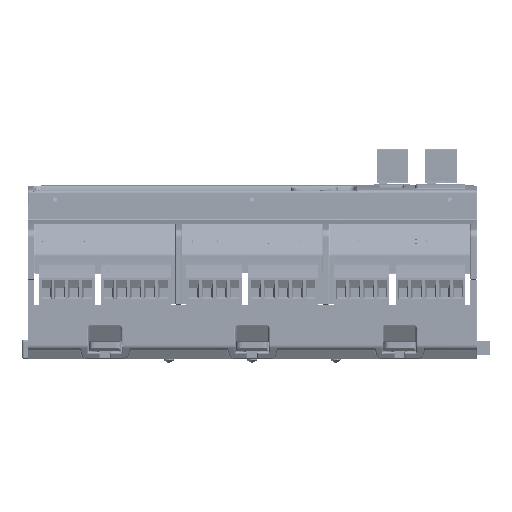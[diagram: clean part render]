
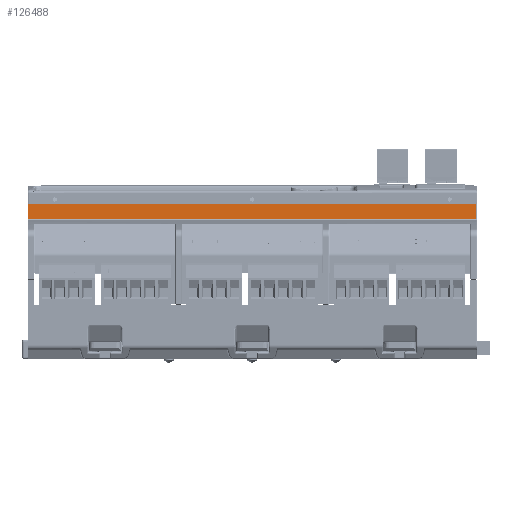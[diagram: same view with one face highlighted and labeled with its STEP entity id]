
A CAD part, front view. The second image highlights one B-rep face of the part: STEP entity #126488.
In plain terms, the highlighted planar face has unit normal (0, -1, 0).
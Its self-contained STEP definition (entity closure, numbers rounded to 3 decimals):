
#35237 = LINE ( 'NONE', #103022, #248718 ) ;
#35312 = LINE ( 'NONE', #200006, #67527 ) ;
#60106 = VERTEX_POINT ( 'NONE', #227771 ) ;
#63825 = VECTOR ( 'NONE', #340457, 1000. ) ;
#66747 = FACE_OUTER_BOUND ( 'NONE', #374741, .T. ) ;
#67527 = VECTOR ( 'NONE', #285163, 1000. ) ;
#95423 = VERTEX_POINT ( 'NONE', #366575 ) ;
#103022 = CARTESIAN_POINT ( 'NONE',  ( -80.6, -22.5, 27. ) ) ;
#108016 = DIRECTION ( 'NONE',  ( 0., 0., -1. ) ) ;
#118949 = LINE ( 'NONE', #252381, #323620 ) ;
#126488 = ADVANCED_FACE ( 'NONE', ( #66747 ), #344874, .F. ) ;
#140790 = VERTEX_POINT ( 'NONE', #194114 ) ;
#142195 = ORIENTED_EDGE ( 'NONE', *, *, #158978, .T. ) ;
#142391 = ORIENTED_EDGE ( 'NONE', *, *, #336098, .T. ) ;
#142961 = CARTESIAN_POINT ( 'NONE',  ( -80.6, -22.5, 27. ) ) ;
#143932 = CARTESIAN_POINT ( 'NONE',  ( 80.8, -22.5, 27. ) ) ;
#147719 = DIRECTION ( 'NONE',  ( 0., 0., 1. ) ) ;
#158978 = EDGE_CURVE ( 'NONE', #324323, #60106, #35237, .T. ) ;
#165050 = CARTESIAN_POINT ( 'NONE',  ( 80.6, -22.5, 27. ) ) ;
#184680 = AXIS2_PLACEMENT_3D ( 'NONE', #143932, #234088, #147719 ) ;
#194114 = CARTESIAN_POINT ( 'NONE',  ( 80.6, -22.5, 21.687 ) ) ;
#200006 = CARTESIAN_POINT ( 'NONE',  ( 80.8, -22.5, 27. ) ) ;
#222633 = LINE ( 'NONE', #165050, #63825 ) ;
#227771 = CARTESIAN_POINT ( 'NONE',  ( -80.6, -22.5, 21.687 ) ) ;
#234088 = DIRECTION ( 'NONE',  ( 0., 1., 0. ) ) ;
#248718 = VECTOR ( 'NONE', #108016, 1000. ) ;
#252381 = CARTESIAN_POINT ( 'NONE',  ( 80.8, -22.5, 21.687 ) ) ;
#277829 = DIRECTION ( 'NONE',  ( 1., 0., 0. ) ) ;
#285163 = DIRECTION ( 'NONE',  ( -1., 0., 0. ) ) ;
#287557 = EDGE_CURVE ( 'NONE', #95423, #324323, #35312, .T. ) ;
#312970 = EDGE_CURVE ( 'NONE', #140790, #95423, #222633, .T. ) ;
#323620 = VECTOR ( 'NONE', #277829, 1000. ) ;
#324323 = VERTEX_POINT ( 'NONE', #142961 ) ;
#326585 = ORIENTED_EDGE ( 'NONE', *, *, #287557, .T. ) ;
#336098 = EDGE_CURVE ( 'NONE', #60106, #140790, #118949, .T. ) ;
#340457 = DIRECTION ( 'NONE',  ( 0., 0., 1. ) ) ;
#344874 = PLANE ( 'NONE',  #184680 ) ;
#366575 = CARTESIAN_POINT ( 'NONE',  ( 80.6, -22.5, 27. ) ) ;
#367002 = ORIENTED_EDGE ( 'NONE', *, *, #312970, .T. ) ;
#374741 = EDGE_LOOP ( 'NONE', ( #142391, #367002, #326585, #142195 ) ) ;
